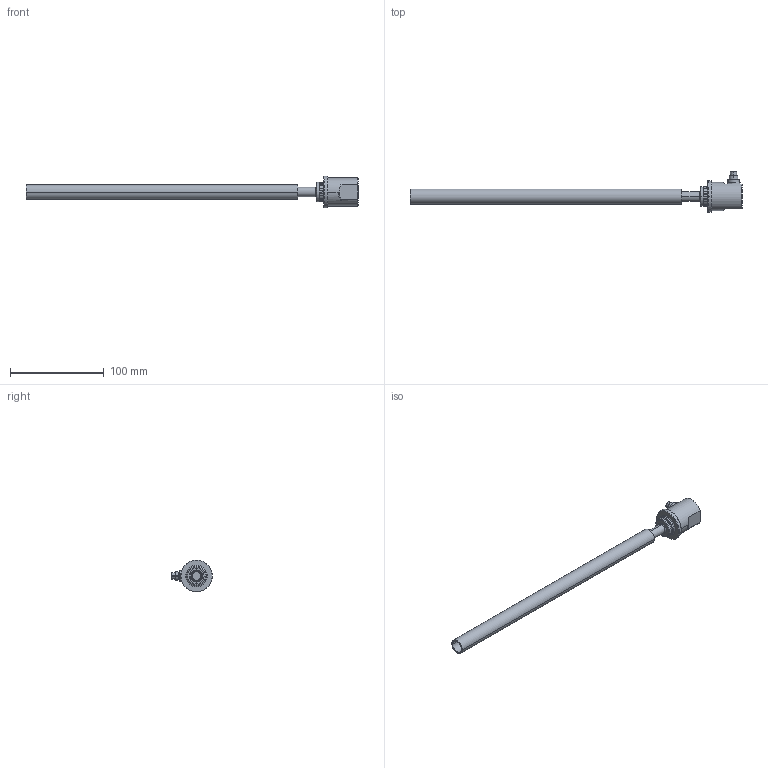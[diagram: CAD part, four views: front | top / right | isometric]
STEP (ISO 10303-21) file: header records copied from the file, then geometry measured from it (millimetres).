
FILE_DESCRIPTION((''),'2;1');
FILE_NAME('EDS-250-S-SR7_MIT_ROHR_ASM','2007-11-28T',('11000065'),(''),'PRO/ENGINEER BY PARAMETRIC TECHNOLOGY CORPORATION, 2007160','PRO/ENGINEER BY PARAMETRIC TECHNOLOGY CORPORATION, 2007160','');
FILE_SCHEMA(('AUTOMOTIVE_DESIGN { 1 2 10303 214 0 1 1 1 }'));
Length unit declared in the file: millimetre
Products named in the file (4): EDS-250-S-SR7; MESSROHR; O-RING-18X1_5; EDS-250-S-SR7_MIT_ROHR_ASM
Assembly tree (3 placements, depth 2):
  EDS-250-S-SR7_MIT_ROHR_ASM
    EDS-250-S-SR7
    MESSROHR
    O-RING-18X1_5
Bounding box: 354.5 x 43.69 x 34 mm (x, y, z)
Volume: 71978.8 mm3; surface area: 42789.6 mm2
Topology: 3 solids, 11 shells, 199 faces, 473 edges, 302 vertices
Faces by surface type: cylinder 93, plane 55, cone 20, sphere 14, torus 13, bspline 4
Entity records: 6554 total; most frequent: CARTESIAN_POINT 1355, DIRECTION 1090, ORIENTED_EDGE 918, AXIS2_PLACEMENT_3D 468, EDGE_CURVE 459, VERTEX_POINT 302, CIRCLE 266, EDGE_LOOP 237
